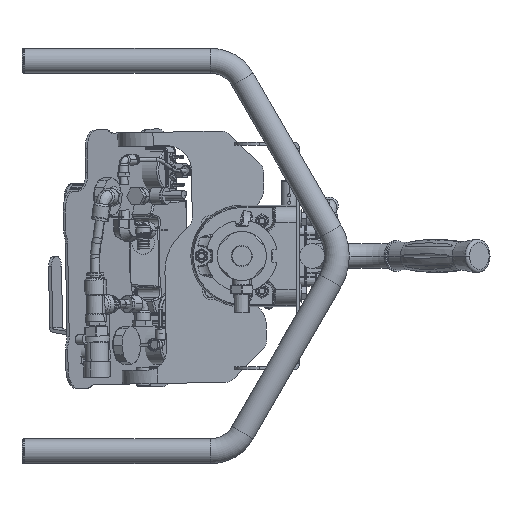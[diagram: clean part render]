
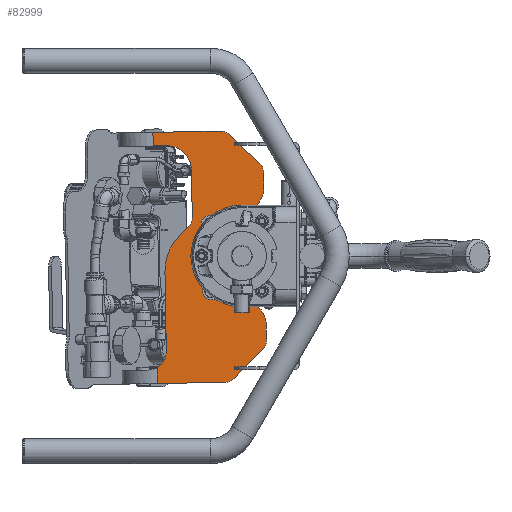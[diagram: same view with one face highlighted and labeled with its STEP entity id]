
A CAD part, front view. The second image highlights one B-rep face of the part: STEP entity #82999.
In plain terms, the highlighted planar face has unit normal (0, -1, 0).
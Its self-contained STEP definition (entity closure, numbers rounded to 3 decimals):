
#82080=CARTESIAN_POINT('',(-2.212,5.557,-2.788));
#82081=DIRECTION('',(0.,-1.,0.));
#82082=DIRECTION('',(1.,0.,0.017));
#82083=AXIS2_PLACEMENT_3D('',#82080,#82081,#82082);
#82085=DIRECTION('',(-0.017,0.,1.));
#82086=VECTOR('',#82085,0.604);
#82087=CARTESIAN_POINT('',(-1.201,5.557,-3.375));
#82088=LINE('',#82087,#82086);
#82089=CARTESIAN_POINT('',(-1.701,5.557,-3.384));
#82090=DIRECTION('',(0.,-1.,0.));
#82091=DIRECTION('',(0.719,0.,-0.695));
#82092=AXIS2_PLACEMENT_3D('',#82089,#82090,#82091);
#82094=DIRECTION('',(0.695,0.,0.719));
#82095=VECTOR('',#82094,1.683);
#82096=CARTESIAN_POINT('',(-2.511,5.557,-4.942));
#82097=LINE('',#82096,#82095);
#82098=CARTESIAN_POINT('',(-2.87,5.557,-4.595));
#82099=DIRECTION('',(0.,-1.,0.));
#82100=DIRECTION('',(0.017,0.,-1.));
#82101=AXIS2_PLACEMENT_3D('',#82098,#82099,#82100);
#82103=DIRECTION('',(1.,0.,0.017));
#82104=VECTOR('',#82103,2.746);
#82105=CARTESIAN_POINT('',(-5.607,5.557,-5.142));
#82106=LINE('',#82105,#82104);
#82107=CARTESIAN_POINT('',(-5.994,5.557,-3.849));
#82108=DIRECTION('',(0.,-1.,0.));
#82109=DIRECTION('',(0.501,0.,-0.865));
#82110=AXIS2_PLACEMENT_3D('',#82107,#82108,#82109);
#82112=DIRECTION('',(0.017,0.,-1.));
#82113=VECTOR('',#82112,3.204);
#82114=CARTESIAN_POINT('',(-5.3,5.557,-0.632));
#82115=LINE('',#82114,#82113);
#82116=CARTESIAN_POINT('',(-3.3,5.557,-0.597));
#82117=DIRECTION('',(0.,-1.,0.));
#82118=DIRECTION('',(-0.719,0.,0.695));
#82119=AXIS2_PLACEMENT_3D('',#82116,#82117,#82118);
#82121=DIRECTION('',(-0.695,0.,-0.719));
#82122=VECTOR('',#82121,0.577);
#82123=CARTESIAN_POINT('',(-4.338,5.557,1.207));
#82124=LINE('',#82123,#82122);
#82125=CARTESIAN_POINT('',(-4.698,5.557,1.554));
#82126=DIRECTION('',(0.,-1.,0.));
#82127=DIRECTION('',(0.719,0.,-0.695));
#82128=AXIS2_PLACEMENT_3D('',#82125,#82126,#82127);
#82130=DIRECTION('',(0.017,0.,-1.));
#82131=VECTOR('',#82130,1.9);
#82132=CARTESIAN_POINT('',(-4.231,5.557,3.463));
#82133=LINE('',#82132,#82131);
#82134=CARTESIAN_POINT('',(-5.231,5.557,3.445));
#82135=DIRECTION('',(0.,-1.,0.));
#82136=DIRECTION('',(1.,0.,0.017));
#82137=AXIS2_PLACEMENT_3D('',#82134,#82135,#82136);
#82139=DIRECTION('',(1.,0.,0.017));
#82140=VECTOR('',#82139,0.526);
#82141=CARTESIAN_POINT('',(-5.774,5.557,4.436));
#82142=LINE('',#82141,#82140);
#82143=DIRECTION('',(-1.,0.,-0.017));
#82144=VECTOR('',#82143,2.746);
#82145=CARTESIAN_POINT('',(-3.038,5.557,5.034));
#82146=LINE('',#82145,#82144);
#82147=CARTESIAN_POINT('',(-3.03,5.557,4.534));
#82148=DIRECTION('',(0.,-1.,0.));
#82149=DIRECTION('',(0.695,0.,0.719));
#82150=AXIS2_PLACEMENT_3D('',#82147,#82148,#82149);
#82152=DIRECTION('',(-0.719,0.,0.695));
#82153=VECTOR('',#82152,1.683);
#82154=CARTESIAN_POINT('',(-1.472,5.557,3.725));
#82155=LINE('',#82154,#82153);
#82156=CARTESIAN_POINT('',(-1.819,5.557,3.365));
#82157=DIRECTION('',(0.,-1.,0.));
#82158=DIRECTION('',(1.,0.,0.017));
#82159=AXIS2_PLACEMENT_3D('',#82156,#82157,#82158);
#82161=DIRECTION('',(-0.017,0.,1.));
#82162=VECTOR('',#82161,0.604);
#82163=CARTESIAN_POINT('',(-1.309,5.557,2.769));
#82164=LINE('',#82163,#82162);
#82165=CARTESIAN_POINT('',(-2.308,5.557,2.752));
#82166=DIRECTION('',(0.,-1.,0.));
#82167=DIRECTION('',(0.588,0.,-0.809));
#82168=AXIS2_PLACEMENT_3D('',#82165,#82166,#82167);
#82170=DIRECTION('',(0.809,0.,0.588));
#82171=VECTOR('',#82170,2.426);
#82172=CARTESIAN_POINT('',(-3.684,5.557,0.517));
#82173=LINE('',#82172,#82171);
#82174=CARTESIAN_POINT('',(-3.617,5.557,-0.042));
#82175=DIRECTION('',(0.,1.,0.));
#82176=DIRECTION('',(-0.083,0.,-0.997));
#82177=AXIS2_PLACEMENT_3D('',#82174,#82175,#82176);
#82179=DIRECTION('',(-0.829,0.,0.559));
#82180=VECTOR('',#82179,2.426);
#82181=CARTESIAN_POINT('',(-1.653,5.557,-1.959));
#82182=LINE('',#82181,#82180);
#82241=DIRECTION('',(-0.017,0.,1.));
#82242=VECTOR('',#82241,0.55);
#82243=CARTESIAN_POINT('',(-5.774,5.557,4.436));
#82244=LINE('',#82243,#82242);
#82302=DIRECTION('',(-0.017,0.,1.));
#82303=VECTOR('',#82302,0.644);
#82304=CARTESIAN_POINT('',(-5.607,5.557,-5.142));
#82305=LINE('',#82304,#82303);
#82759=CARTESIAN_POINT('',(-5.784,5.557,4.986));
#82761=VERTEX_POINT('',#82759);
#82763=CARTESIAN_POINT('',(-5.607,5.557,-5.142));
#82765=VERTEX_POINT('',#82763);
#82790=CARTESIAN_POINT('',(-5.774,5.557,4.436));
#82791=CARTESIAN_POINT('',(-5.248,5.557,4.445));
#82792=VERTEX_POINT('',#82790);
#82793=VERTEX_POINT('',#82791);
#82808=CARTESIAN_POINT('',(-5.618,5.557,-4.498));
#82809=VERTEX_POINT('',#82808);
#82830=CARTESIAN_POINT('',(-4.338,5.557,1.207));
#82831=CARTESIAN_POINT('',(-4.198,5.557,1.563));
#82832=VERTEX_POINT('',#82830);
#82833=VERTEX_POINT('',#82831);
#82838=CARTESIAN_POINT('',(-4.231,5.557,3.463));
#82839=VERTEX_POINT('',#82838);
#82842=CARTESIAN_POINT('',(-5.3,5.557,-0.632));
#82843=CARTESIAN_POINT('',(-5.244,5.557,-3.836));
#82844=VERTEX_POINT('',#82842);
#82845=VERTEX_POINT('',#82843);
#82850=CARTESIAN_POINT('',(-4.739,5.557,0.792));
#82851=VERTEX_POINT('',#82850);
#82854=CARTESIAN_POINT('',(-2.862,5.557,-5.095));
#82855=CARTESIAN_POINT('',(-2.511,5.557,-4.942));
#82856=VERTEX_POINT('',#82854);
#82857=VERTEX_POINT('',#82855);
#82858=CARTESIAN_POINT('',(-1.342,5.557,-3.731));
#82859=VERTEX_POINT('',#82858);
#82860=CARTESIAN_POINT('',(-1.201,5.557,-3.375));
#82861=VERTEX_POINT('',#82860);
#82862=CARTESIAN_POINT('',(-1.319,5.557,3.374));
#82863=CARTESIAN_POINT('',(-1.472,5.557,3.725));
#82864=VERTEX_POINT('',#82862);
#82865=VERTEX_POINT('',#82863);
#82866=CARTESIAN_POINT('',(-2.682,5.557,4.894));
#82867=VERTEX_POINT('',#82866);
#82868=CARTESIAN_POINT('',(-3.038,5.557,5.034));
#82869=VERTEX_POINT('',#82868);
#82918=CARTESIAN_POINT('',(-3.664,5.557,-0.602));
#82919=CARTESIAN_POINT('',(-3.684,5.557,0.517));
#82920=VERTEX_POINT('',#82918);
#82921=VERTEX_POINT('',#82919);
#82926=CARTESIAN_POINT('',(-1.212,5.557,-2.771));
#82927=CARTESIAN_POINT('',(-1.653,5.557,-1.959));
#82928=VERTEX_POINT('',#82926);
#82929=VERTEX_POINT('',#82927);
#82934=CARTESIAN_POINT('',(-1.721,5.557,1.943));
#82935=CARTESIAN_POINT('',(-1.309,5.557,2.769));
#82936=VERTEX_POINT('',#82934);
#82937=VERTEX_POINT('',#82935);
#82942=CARTESIAN_POINT('',(-7.109,5.557,-0.103));
#82943=DIRECTION('',(0.,-1.,0.));
#82944=DIRECTION('',(-1.,0.,-0.017));
#82945=AXIS2_PLACEMENT_3D('',#82942,#82943,#82944);
#82946=PLANE('',#82945);
#82948=ORIENTED_EDGE('',*,*,#82947,.F.);
#82950=ORIENTED_EDGE('',*,*,#82949,.F.);
#82952=ORIENTED_EDGE('',*,*,#82951,.F.);
#82954=ORIENTED_EDGE('',*,*,#82953,.F.);
#82956=ORIENTED_EDGE('',*,*,#82955,.F.);
#82958=ORIENTED_EDGE('',*,*,#82957,.F.);
#82960=ORIENTED_EDGE('',*,*,#82959,.T.);
#82962=ORIENTED_EDGE('',*,*,#82961,.T.);
#82964=ORIENTED_EDGE('',*,*,#82963,.F.);
#82966=ORIENTED_EDGE('',*,*,#82965,.F.);
#82968=ORIENTED_EDGE('',*,*,#82967,.F.);
#82970=ORIENTED_EDGE('',*,*,#82969,.T.);
#82972=ORIENTED_EDGE('',*,*,#82971,.F.);
#82974=ORIENTED_EDGE('',*,*,#82973,.T.);
#82976=ORIENTED_EDGE('',*,*,#82975,.F.);
#82978=ORIENTED_EDGE('',*,*,#82977,.T.);
#82980=ORIENTED_EDGE('',*,*,#82979,.F.);
#82982=ORIENTED_EDGE('',*,*,#82981,.F.);
#82984=ORIENTED_EDGE('',*,*,#82983,.F.);
#82986=ORIENTED_EDGE('',*,*,#82985,.F.);
#82988=ORIENTED_EDGE('',*,*,#82987,.F.);
#82990=ORIENTED_EDGE('',*,*,#82989,.F.);
#82992=ORIENTED_EDGE('',*,*,#82991,.F.);
#82994=ORIENTED_EDGE('',*,*,#82993,.F.);
#82996=ORIENTED_EDGE('',*,*,#82995,.F.);
#82997=EDGE_LOOP('',(#82948,#82950,#82952,#82954,#82956,#82958,#82960,#82962,
#82964,#82966,#82968,#82970,#82972,#82974,#82976,#82978,#82980,#82982,#82984,
#82986,#82988,#82990,#82992,#82994,#82996));
#82998=FACE_OUTER_BOUND('',#82997,.F.);
#82999=ADVANCED_FACE('',(#82998),#82946,.T.);
#82084=CIRCLE('',#82083,1.);
#82093=CIRCLE('',#82092,0.5);
#82102=CIRCLE('',#82101,0.5);
#82111=CIRCLE('',#82110,0.75);
#82120=CIRCLE('',#82119,2.);
#82129=CIRCLE('',#82128,0.5);
#82138=CIRCLE('',#82137,1.);
#82151=CIRCLE('',#82150,0.5);
#82160=CIRCLE('',#82159,0.5);
#82169=CIRCLE('',#82168,1.);
#82178=CIRCLE('',#82177,0.563);
#82947=EDGE_CURVE('',#82928,#82929,#82084,.T.);
#82949=EDGE_CURVE('',#82861,#82928,#82088,.T.);
#82951=EDGE_CURVE('',#82859,#82861,#82093,.T.);
#82953=EDGE_CURVE('',#82857,#82859,#82097,.T.);
#82955=EDGE_CURVE('',#82856,#82857,#82102,.T.);
#82957=EDGE_CURVE('',#82765,#82856,#82106,.T.);
#82959=EDGE_CURVE('',#82765,#82809,#82305,.T.);
#82961=EDGE_CURVE('',#82809,#82845,#82111,.T.);
#82963=EDGE_CURVE('',#82844,#82845,#82115,.T.);
#82965=EDGE_CURVE('',#82851,#82844,#82120,.T.);
#82967=EDGE_CURVE('',#82832,#82851,#82124,.T.);
#82969=EDGE_CURVE('',#82832,#82833,#82129,.T.);
#82971=EDGE_CURVE('',#82839,#82833,#82133,.T.);
#82973=EDGE_CURVE('',#82839,#82793,#82138,.T.);
#82975=EDGE_CURVE('',#82792,#82793,#82142,.T.);
#82977=EDGE_CURVE('',#82792,#82761,#82244,.T.);
#82979=EDGE_CURVE('',#82869,#82761,#82146,.T.);
#82981=EDGE_CURVE('',#82867,#82869,#82151,.T.);
#82983=EDGE_CURVE('',#82865,#82867,#82155,.T.);
#82985=EDGE_CURVE('',#82864,#82865,#82160,.T.);
#82987=EDGE_CURVE('',#82937,#82864,#82164,.T.);
#82989=EDGE_CURVE('',#82936,#82937,#82169,.T.);
#82991=EDGE_CURVE('',#82921,#82936,#82173,.T.);
#82993=EDGE_CURVE('',#82920,#82921,#82178,.T.);
#82995=EDGE_CURVE('',#82929,#82920,#82182,.T.);
